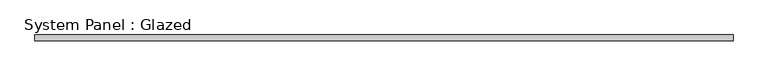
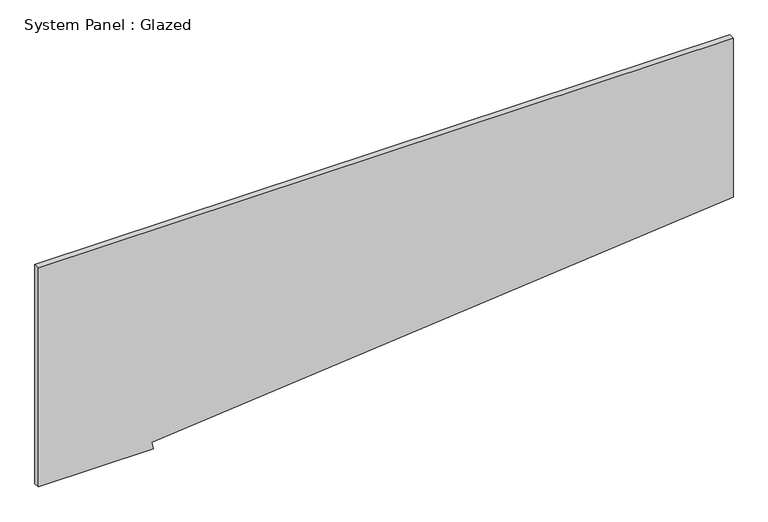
"""IFC4 building model written with IfcOpenShell, lengths in millimetres: plate geometry, System Panel : Glazed."""

from ifc_helpers import new_model, si_unit, frame, origin, place, context, project, spatial, polyline, outline, extrude, source, transform, mapped, element, save


def system_panel_glazed_89b2061c(model_context):
    return source(origin(), model_context, "Body", "SweptSolid", [
        extrude(outline(polyline([(0.0, -1504.95), (0.0, -1006.4140532), (31.4526644, -1012.551904), (275.9368346, 1504.95), (1003.3, 1504.95), (1003.3, -1504.95), (0.0, -1504.95)])), frame((0.0, 19.05, 0.0), z_axis=(0.0, 1.0, 0.0), x_axis=(0.0, 0.0, 1.0)), (0.0, 0.0, 1.0), 25.4),
    ])


if __name__ == "__main__":
    model = new_model("IFC4")
    model_context = context("Model", 3, world=origin())
    ifc_project = project(units=[si_unit("LENGTHUNIT", "METRE", prefix="MILLI")], contexts=[model_context])
    site = spatial("IfcSite", under=ifc_project)
    building = spatial("IfcBuilding", under=site)
    placement = place(None, origin())
    system_panel_glazed_shape = system_panel_glazed_89b2061c(model_context)
    element("IfcPlate", 1, ObjectType="System Panel : Glazed", at=placement, inside=building, context=model_context, shape_type="MappedRepresentation", body=[
        mapped(system_panel_glazed_shape, transform((0.0, 0.0, 0.0), x_axis=(1.0, 0.0, 0.0), y_axis=(0.0, 1.0, 0.0), z_axis=(0.0, 0.0, 1.0))),
    ])
    save(model, "model.ifc")
